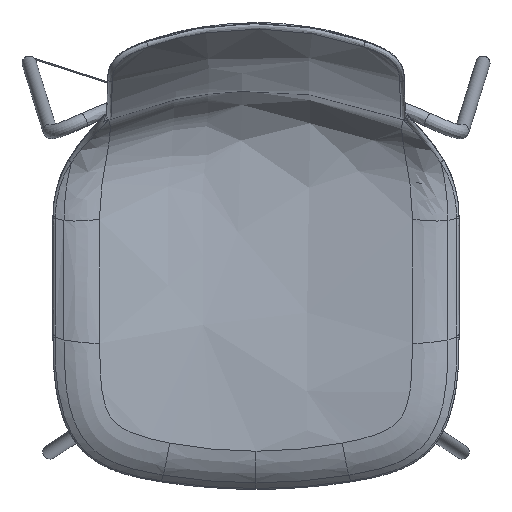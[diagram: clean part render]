
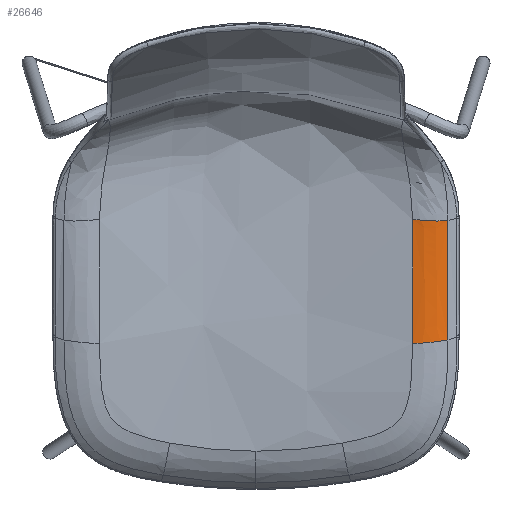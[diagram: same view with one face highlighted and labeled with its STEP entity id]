
A CAD part, top view. The second image highlights one B-rep face of the part: STEP entity #26646.
In plain terms, the highlighted free-form (B-spline) face has degree [3, 3] with [14, 4] control points.
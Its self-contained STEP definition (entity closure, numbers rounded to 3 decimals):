
#158=B_SPLINE_SURFACE_WITH_KNOTS('',3,3,((#98272,#98273,#98274,#98275),
(#98276,#98277,#98278,#98279),(#98280,#98281,#98282,#98283),(#98284,#98285,
#98286,#98287),(#98288,#98289,#98290,#98291),(#98292,#98293,#98294,#98295),
(#98296,#98297,#98298,#98299),(#98300,#98301,#98302,#98303),(#98304,#98305,
#98306,#98307),(#98308,#98309,#98310,#98311),(#98312,#98313,#98314,#98315),
(#98316,#98317,#98318,#98319),(#98320,#98321,#98322,#98323),(#98324,#98325,
#98326,#98327)),.UNSPECIFIED.,.F.,.F.,.F.,(4,1,1,1,1,1,1,1,1,1,1,4),(4,
4),(0.,0.063,0.125,0.188,0.25,0.313,0.375,0.5,0.625,
0.75,0.875,1.),(0.,1.),.UNSPECIFIED.);
#2475=B_SPLINE_CURVE_WITH_KNOTS('',3,(#75278,#75279,#75280,#75281,#75282,
#75283,#75284,#75285,#75286),.UNSPECIFIED.,.F.,.F.,(4,1,1,1,1,1,4),(0.,
0.063,0.25,0.5,0.75,0.875,1.),.UNSPECIFIED.);
#2981=B_SPLINE_CURVE_WITH_KNOTS('',3,(#98329,#98330,#98331,#98332,#98333,
#98334,#98335,#98336,#98337,#98338,#98339,#98340,#98341),.UNSPECIFIED.,
 .F.,.F.,(4,3,3,3,4),(0.,0.321,0.66,0.947,
1.),.UNSPECIFIED.);
#2982=B_SPLINE_CURVE_WITH_KNOTS('',3,(#98343,#98344,#98345,#98346,#98347,
#98348,#98349,#98350,#98351,#98352,#98353,#98354,#98355,#98356),
 .UNSPECIFIED.,.F.,.F.,(4,1,1,1,1,1,1,1,1,1,1,4),(0.,0.125,0.25,0.375,0.5,
0.625,0.688,0.75,0.813,0.875,0.938,1.),.UNSPECIFIED.);
#2983=B_SPLINE_CURVE_WITH_KNOTS('',3,(#98357,#98358,#98359,#98360),
 .UNSPECIFIED.,.F.,.F.,(4,4),(0.,1.),.UNSPECIFIED.);
#6038=FACE_OUTER_BOUND('',#7696,.T.);
#7696=EDGE_LOOP('',(#17787,#17788,#17789,#17790));
#9339=VERTEX_POINT('',#75250);
#9340=VERTEX_POINT('',#75277);
#9832=VERTEX_POINT('',#98328);
#9833=VERTEX_POINT('',#98342);
#11953=EDGE_CURVE('',#9340,#9339,#2475,.T.);
#12791=EDGE_CURVE('',#9339,#9832,#2981,.T.);
#12792=EDGE_CURVE('',#9832,#9833,#2982,.T.);
#12793=EDGE_CURVE('',#9833,#9340,#2983,.T.);
#17787=ORIENTED_EDGE('',*,*,#11953,.T.);
#17788=ORIENTED_EDGE('',*,*,#12791,.T.);
#17789=ORIENTED_EDGE('',*,*,#12792,.T.);
#17790=ORIENTED_EDGE('',*,*,#12793,.T.);
#26646=ADVANCED_FACE('',(#6038),#158,.T.);
#75250=CARTESIAN_POINT('',(699.115,316.267,460.587));
#75277=CARTESIAN_POINT('',(699.115,456.289,455.899));
#75278=CARTESIAN_POINT('Ctrl Pts',(699.115,456.289,455.899));
#75279=CARTESIAN_POINT('Ctrl Pts',(699.115,453.239,455.981));
#75280=CARTESIAN_POINT('Ctrl Pts',(699.115,441.03,456.335));
#75281=CARTESIAN_POINT('Ctrl Pts',(699.115,416.604,457.204));
#75282=CARTESIAN_POINT('Ctrl Pts',(699.115,383.525,458.548));
#75283=CARTESIAN_POINT('Ctrl Pts',(699.115,354.592,459.615));
#75284=CARTESIAN_POINT('Ctrl Pts',(699.115,332.365,460.255));
#75285=CARTESIAN_POINT('Ctrl Pts',(699.115,321.576,460.492));
#75286=CARTESIAN_POINT('Ctrl Pts',(699.115,316.267,460.587));
#98272=CARTESIAN_POINT('Ctrl Pts',(699.115,456.289,455.898));
#98273=CARTESIAN_POINT('Ctrl Pts',(711.832,456.382,459.334));
#98274=CARTESIAN_POINT('Ctrl Pts',(726.721,453.368,459.83));
#98275=CARTESIAN_POINT('Ctrl Pts',(739.115,455.778,456.585));
#98276=CARTESIAN_POINT('Ctrl Pts',(699.115,453.239,455.981));
#98277=CARTESIAN_POINT('Ctrl Pts',(711.84,453.335,459.383));
#98278=CARTESIAN_POINT('Ctrl Pts',(726.72,450.684,459.819));
#98279=CARTESIAN_POINT('Ctrl Pts',(739.115,453.084,456.532));
#98280=CARTESIAN_POINT('Ctrl Pts',(699.115,447.134,456.158));
#98281=CARTESIAN_POINT('Ctrl Pts',(711.855,447.237,459.493));
#98282=CARTESIAN_POINT('Ctrl Pts',(726.719,445.316,459.839));
#98283=CARTESIAN_POINT('Ctrl Pts',(739.115,447.693,456.469));
#98284=CARTESIAN_POINT('Ctrl Pts',(699.115,437.976,456.454));
#98285=CARTESIAN_POINT('Ctrl Pts',(711.887,438.085,459.689));
#98286=CARTESIAN_POINT('Ctrl Pts',(726.711,437.223,459.876));
#98287=CARTESIAN_POINT('Ctrl Pts',(739.115,439.599,456.405));
#98288=CARTESIAN_POINT('Ctrl Pts',(699.115,428.83,456.773));
#98289=CARTESIAN_POINT('Ctrl Pts',(711.923,428.943,459.909));
#98290=CARTESIAN_POINT('Ctrl Pts',(726.701,429.122,459.931));
#98291=CARTESIAN_POINT('Ctrl Pts',(739.115,431.488,456.343));
#98292=CARTESIAN_POINT('Ctrl Pts',(699.115,419.71,457.111));
#98293=CARTESIAN_POINT('Ctrl Pts',(711.963,419.825,460.15));
#98294=CARTESIAN_POINT('Ctrl Pts',(726.688,421.,459.998));
#98295=CARTESIAN_POINT('Ctrl Pts',(739.115,423.354,456.29));
#98296=CARTESIAN_POINT('Ctrl Pts',(699.115,410.629,457.46));
#98297=CARTESIAN_POINT('Ctrl Pts',(712.006,410.744,460.403));
#98298=CARTESIAN_POINT('Ctrl Pts',(726.674,412.849,460.074));
#98299=CARTESIAN_POINT('Ctrl Pts',(739.115,415.186,456.241));
#98300=CARTESIAN_POINT('Ctrl Pts',(699.115,398.59,457.933));
#98301=CARTESIAN_POINT('Ctrl Pts',(712.065,398.702,460.749));
#98302=CARTESIAN_POINT('Ctrl Pts',(726.657,401.931,460.184));
#98303=CARTESIAN_POINT('Ctrl Pts',(739.115,404.241,456.18));
#98304=CARTESIAN_POINT('Ctrl Pts',(699.115,383.696,458.525));
#98305=CARTESIAN_POINT('Ctrl Pts',(712.139,383.8,461.186));
#98306=CARTESIAN_POINT('Ctrl Pts',(726.644,388.165,460.326));
#98307=CARTESIAN_POINT('Ctrl Pts',(739.115,390.432,456.105));
#98308=CARTESIAN_POINT('Ctrl Pts',(699.115,366.165,459.188));
#98309=CARTESIAN_POINT('Ctrl Pts',(712.211,366.255,461.667));
#98310=CARTESIAN_POINT('Ctrl Pts',(726.659,371.381,460.476));
#98311=CARTESIAN_POINT('Ctrl Pts',(739.115,373.577,456.002));
#98312=CARTESIAN_POINT('Ctrl Pts',(699.115,349.035,459.775));
#98313=CARTESIAN_POINT('Ctrl Pts',(712.253,349.109,462.076));
#98314=CARTESIAN_POINT('Ctrl Pts',(726.717,354.231,460.576));
#98315=CARTESIAN_POINT('Ctrl Pts',(739.115,356.343,455.866));
#98316=CARTESIAN_POINT('Ctrl Pts',(699.115,332.365,460.255));
#98317=CARTESIAN_POINT('Ctrl Pts',(712.259,332.413,462.386));
#98318=CARTESIAN_POINT('Ctrl Pts',(726.819,336.616,460.598));
#98319=CARTESIAN_POINT('Ctrl Pts',(739.115,338.615,455.682));
#98320=CARTESIAN_POINT('Ctrl Pts',(699.115,321.576,460.492));
#98321=CARTESIAN_POINT('Ctrl Pts',(712.248,321.63,462.517));
#98322=CARTESIAN_POINT('Ctrl Pts',(726.916,324.419,460.543));
#98323=CARTESIAN_POINT('Ctrl Pts',(739.115,326.37,455.515));
#98324=CARTESIAN_POINT('Ctrl Pts',(699.115,316.267,460.587));
#98325=CARTESIAN_POINT('Ctrl Pts',(712.243,316.303,462.562));
#98326=CARTESIAN_POINT('Ctrl Pts',(726.959,318.21,460.491));
#98327=CARTESIAN_POINT('Ctrl Pts',(739.115,320.109,455.412));
#98328=CARTESIAN_POINT('',(739.115,320.108,455.414));
#98329=CARTESIAN_POINT('Ctrl Pts',(699.115,316.267,460.587));
#98330=CARTESIAN_POINT('Ctrl Pts',(703.326,316.279,461.22));
#98331=CARTESIAN_POINT('Ctrl Pts',(707.701,316.483,461.438));
#98332=CARTESIAN_POINT('Ctrl Pts',(712.102,316.817,461.273));
#98333=CARTESIAN_POINT('Ctrl Pts',(716.761,317.171,461.098));
#98334=CARTESIAN_POINT('Ctrl Pts',(721.45,317.672,460.495));
#98335=CARTESIAN_POINT('Ctrl Pts',(726.007,318.245,459.505));
#98336=CARTESIAN_POINT('Ctrl Pts',(729.855,318.729,458.669));
#98337=CARTESIAN_POINT('Ctrl Pts',(733.608,319.265,457.556));
#98338=CARTESIAN_POINT('Ctrl Pts',(737.168,319.808,456.191));
#98339=CARTESIAN_POINT('Ctrl Pts',(737.824,319.908,455.94));
#98340=CARTESIAN_POINT('Ctrl Pts',(738.472,320.008,455.68));
#98341=CARTESIAN_POINT('Ctrl Pts',(739.114,320.108,455.412));
#98342=CARTESIAN_POINT('',(739.115,455.778,456.585));
#98343=CARTESIAN_POINT('Ctrl Pts',(739.115,320.108,455.414));
#98344=CARTESIAN_POINT('Ctrl Pts',(739.115,326.37,455.515));
#98345=CARTESIAN_POINT('Ctrl Pts',(739.115,338.615,455.682));
#98346=CARTESIAN_POINT('Ctrl Pts',(739.115,356.343,455.866));
#98347=CARTESIAN_POINT('Ctrl Pts',(739.115,373.577,456.002));
#98348=CARTESIAN_POINT('Ctrl Pts',(739.115,390.432,456.105));
#98349=CARTESIAN_POINT('Ctrl Pts',(739.115,404.241,456.18));
#98350=CARTESIAN_POINT('Ctrl Pts',(739.115,415.186,456.241));
#98351=CARTESIAN_POINT('Ctrl Pts',(739.115,423.354,456.29));
#98352=CARTESIAN_POINT('Ctrl Pts',(739.115,431.488,456.343));
#98353=CARTESIAN_POINT('Ctrl Pts',(739.115,439.599,456.405));
#98354=CARTESIAN_POINT('Ctrl Pts',(739.115,447.693,456.469));
#98355=CARTESIAN_POINT('Ctrl Pts',(739.115,453.083,456.532));
#98356=CARTESIAN_POINT('Ctrl Pts',(739.115,455.778,456.585));
#98357=CARTESIAN_POINT('Ctrl Pts',(739.115,455.778,456.585));
#98358=CARTESIAN_POINT('Ctrl Pts',(726.721,453.368,459.83));
#98359=CARTESIAN_POINT('Ctrl Pts',(711.832,456.382,459.334));
#98360=CARTESIAN_POINT('Ctrl Pts',(699.115,456.289,455.899));
